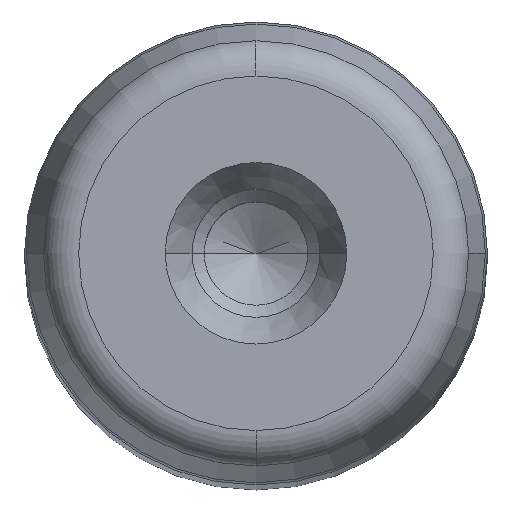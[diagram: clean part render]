
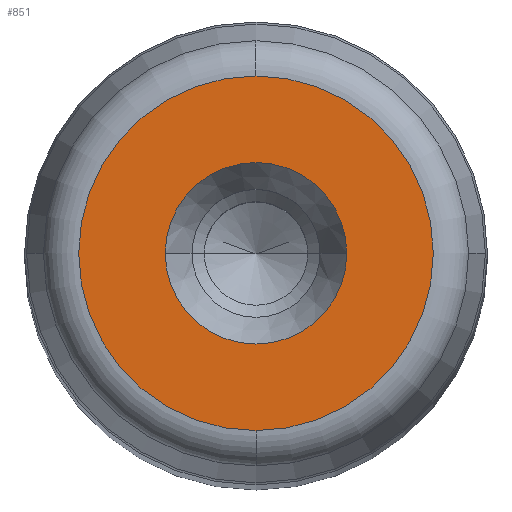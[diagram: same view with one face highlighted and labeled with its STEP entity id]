
A CAD part, top view. The second image highlights one B-rep face of the part: STEP entity #851.
In plain terms, the highlighted planar face has unit normal (0, 0, 1) as drawn and (0, 1, 0) by its records, which use the part's own axes.
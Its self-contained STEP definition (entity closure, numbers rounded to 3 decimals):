
#281=CARTESIAN_POINT('',(7.45,250.0,0.0));
#282=VERTEX_POINT('',#281);
#289=CARTESIAN_POINT('',(-7.45,250.0,0.));
#290=VERTEX_POINT('',#289);
#291=CARTESIAN_POINT('',(0.0,250.0,0.0));
#292=DIRECTION('',(0.0,1.0,0.0));
#293=DIRECTION('',(1.0,0.0,0.0));
#294=AXIS2_PLACEMENT_3D('',#291,#292,#293);
#295=CIRCLE('',#294,7.45);
#296=EDGE_CURVE('',#282,#290,#295,.T.);
#313=CARTESIAN_POINT('',(0.0,250.,14.554));
#314=VERTEX_POINT('',#313);
#324=CARTESIAN_POINT('',(0.,250.,-14.554));
#325=VERTEX_POINT('',#324);
#326=CARTESIAN_POINT('',(0.0,250.,0.0));
#327=DIRECTION('',(0.0,1.0,0.0));
#328=DIRECTION('',(1.0,0.0,0.0));
#329=AXIS2_PLACEMENT_3D('',#326,#327,#328);
#330=CIRCLE('',#329,14.554);
#331=EDGE_CURVE('',#325,#314,#330,.T.);
#812=CARTESIAN_POINT('',(14.554,250.,0.0));
#813=VERTEX_POINT('',#812);
#814=CARTESIAN_POINT('',(0.0,250.,0.0));
#815=DIRECTION('',(0.0,1.0,0.0));
#816=DIRECTION('',(1.0,0.0,0.0));
#817=AXIS2_PLACEMENT_3D('',#814,#815,#816);
#818=CIRCLE('',#817,14.554);
#819=EDGE_CURVE('',#813,#325,#818,.T.);
#821=CARTESIAN_POINT('',(0.0,250.,0.0));
#822=DIRECTION('',(0.0,1.0,0.0));
#823=DIRECTION('',(1.0,0.0,0.0));
#824=AXIS2_PLACEMENT_3D('',#821,#822,#823);
#825=CIRCLE('',#824,14.554);
#826=EDGE_CURVE('',#314,#813,#825,.T.);
#831=CARTESIAN_POINT('',(-16.01,250.0,-16.01));
#832=DIRECTION('',(0.0,1.0,0.0));
#833=DIRECTION('',(0.0,0.0,1.0));
#834=AXIS2_PLACEMENT_3D('',#831,#832,#833);
#835=PLANE('',#834);
#836=ORIENTED_EDGE('',*,*,#819,.T.);
#837=ORIENTED_EDGE('',*,*,#331,.T.);
#838=ORIENTED_EDGE('',*,*,#826,.T.);
#839=EDGE_LOOP('',(#836,#837,#838));
#840=FACE_OUTER_BOUND('',#839,.T.);
#841=ORIENTED_EDGE('',*,*,#296,.F.);
#842=CARTESIAN_POINT('',(0.0,250.0,0.0));
#843=DIRECTION('',(0.0,1.0,0.0));
#844=DIRECTION('',(1.0,0.0,0.0));
#845=AXIS2_PLACEMENT_3D('',#842,#843,#844);
#846=CIRCLE('',#845,7.45);
#847=EDGE_CURVE('',#290,#282,#846,.T.);
#848=ORIENTED_EDGE('',*,*,#847,.F.);
#849=EDGE_LOOP('',(#841,#848));
#850=FACE_BOUND('',#849,.T.);
#851=ADVANCED_FACE('',(#840,#850),#835,.T.);
